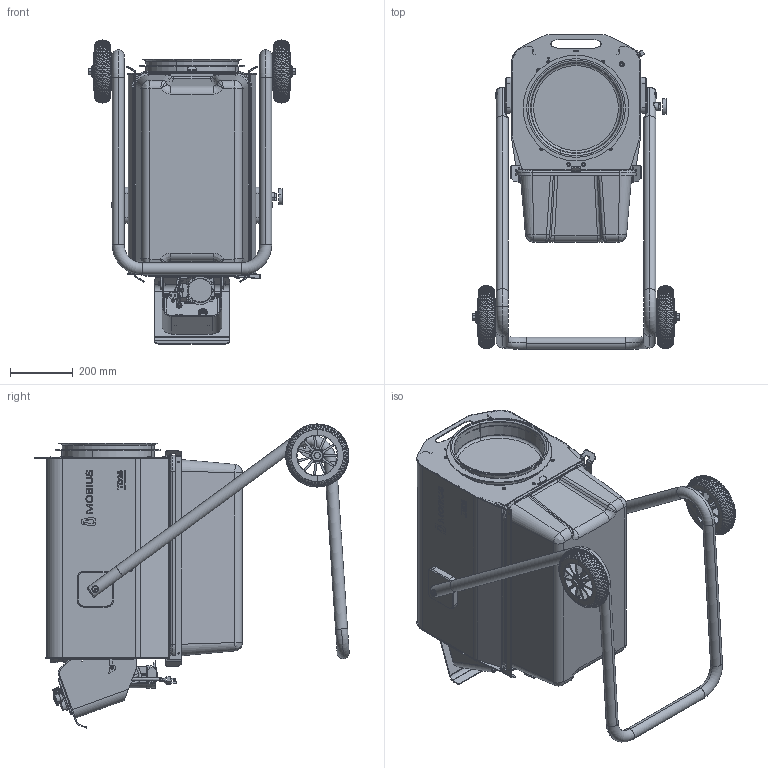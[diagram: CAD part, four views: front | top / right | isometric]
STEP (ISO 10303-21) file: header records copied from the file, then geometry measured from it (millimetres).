
FILE_DESCRIPTION (( 'STEP AP214' ), '1' );
FILE_NAME ('50-00-007100.STEP', '2025-02-03T13:50:48', ( '' ), ( '' ), 'SwSTEP 2.0', 'SolidWorks 2023', '' );
FILE_SCHEMA (( 'AUTOMOTIVE_DESIGN' ));
Products named in the file (1): 50-00-007100
Bounding box: 657.44 x 1001.57 x 969.06 mm (x, y, z)
Surface area: 3949319.2 mm2 (no closed solid volume)
Topology: 0 solids, 292 shells, 1827 faces, 16694 edges, 14783 vertices
Faces by surface type: plane 763, cylinder 485, bspline 418, cone 75, torus 62, sphere 24
Entity records: 199118 total; most frequent: CARTESIAN_POINT 94084, ORIENTED_EDGE 19526, DIRECTION 16723, EDGE_CURVE 16684, VERTEX_POINT 14783, B_SPLINE_CURVE_WITH_KNOTS 6883, AXIS2_PLACEMENT_3D 5606, LINE 5511
